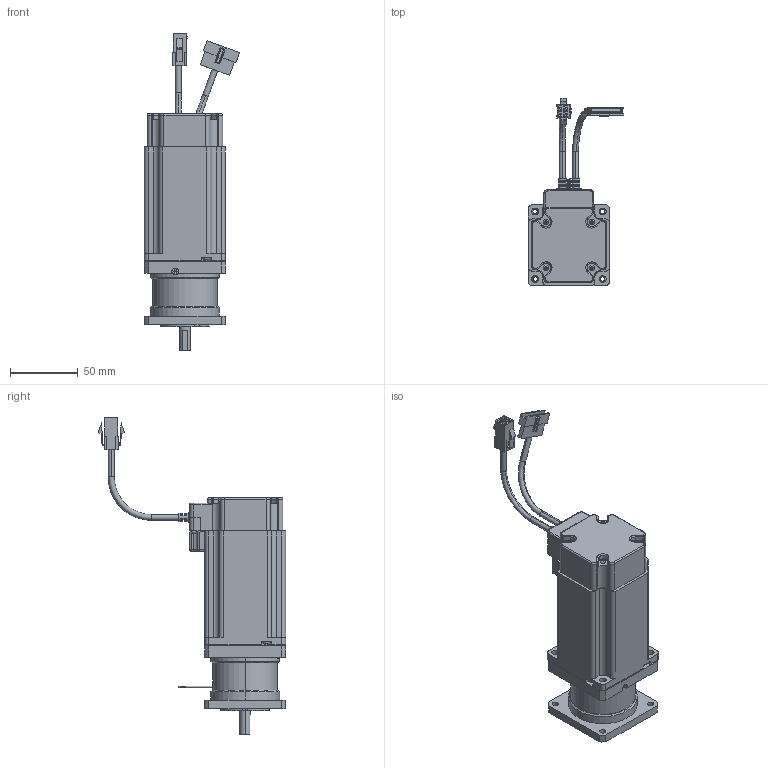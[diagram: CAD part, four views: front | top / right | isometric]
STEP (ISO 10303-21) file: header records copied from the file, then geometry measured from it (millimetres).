
FILE_DESCRIPTION (( 'STEP AP203' ), '1' );
FILE_NAME ('Ezi-SERVO BK PR-60L-85 131203.STEP', '2013-12-03T05:19:34', ( '' ), ( '' ), 'SwSTEP 2.0', 'SolidWorks 2012', '' );
FILE_SCHEMA (( 'CONFIG_CONTROL_DESIGN' ));
Products named in the file (14): Main60_Encoder_Plate-1-2_1; MainEZSV_60_Encoder_Cover-1-2_1; MainM3-screw8-1-2_1; MainM3-screw7-1-2_1; MainEncoder_Cable_60-1-2_1; MainEZSV_60_Cable_Cover-1-2_1; MainPower_Cable_60-1-2_1; MainEzM-60L-1_1; Ezi-SERVO BK PR-60L-85 131203; MainM3-screw11-1-2_1; MainM3-screw9-1-2_1; MainM3-screw10-1-2_1; BK60; MainM3-screw12-1-2_1
Assembly tree (13 placements, depth 2):
  Ezi-SERVO BK PR-60L-85 131203
    MainEzM-60L-1_1
    MainPower_Cable_60-1-2_1
    MainEncoder_Cable_60-1-2_1
    MainEZSV_60_Cable_Cover-1-2_1
    MainEZSV_60_Encoder_Cover-1-2_1
    Main60_Encoder_Plate-1-2_1
    MainM3-screw7-1-2_1
    MainM3-screw8-1-2_1
    MainM3-screw9-1-2_1
    MainM3-screw10-1-2_1
    MainM3-screw11-1-2_1
    MainM3-screw12-1-2_1
    BK60
Bounding box: 70.49 x 138.64 x 234.65 mm (x, y, z)
Volume: 300420.1 mm3; surface area: 89188 mm2
Topology: 12 solids, 28 shells, 1056 faces, 2874 edges, 1888 vertices
Faces by surface type: plane 557, cylinder 412, bspline 41, cone 27, sphere 14, torus 5
Entity records: 39588 total; most frequent: CARTESIAN_POINT 11431, ORIENTED_EDGE 5535, DIRECTION 5519, EDGE_CURVE 2834, AXIS2_PLACEMENT_3D 1950, VERTEX_POINT 1878, VECTOR 1619, LINE 1619
